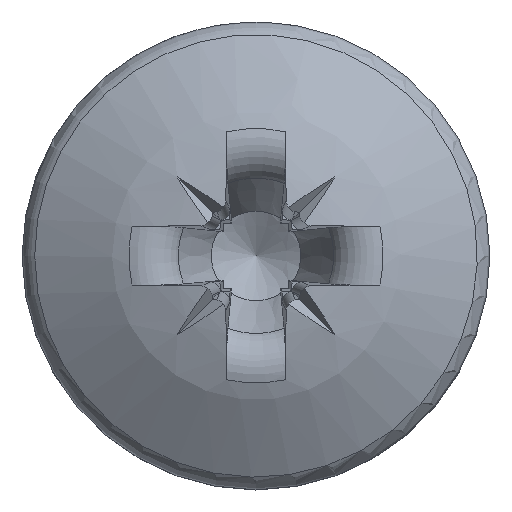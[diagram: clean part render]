
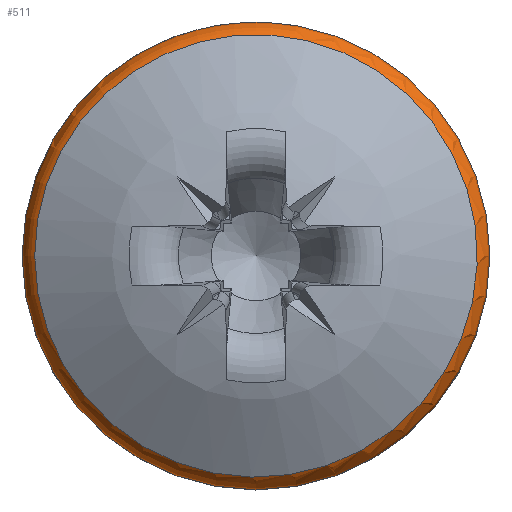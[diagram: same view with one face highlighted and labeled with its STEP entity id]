
A CAD part, top view. The second image highlights one B-rep face of the part: STEP entity #511.
In plain terms, the highlighted toroidal (fillet/blend) face has major radius 3.033 mm and minor radius 0.467 mm.
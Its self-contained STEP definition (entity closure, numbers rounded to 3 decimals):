
#417=TOROIDAL_SURFACE('',#2338,3.033,0.467);
#433=FACE_BOUND('',#799,.T.);
#434=FACE_BOUND('',#800,.T.);
#511=ADVANCED_FACE('',(#433,#434),#417,.T.);
#799=EDGE_LOOP('',(#1271));
#800=EDGE_LOOP('',(#1272));
#878=CIRCLE('',#2223,3.311);
#903=CIRCLE('',#2253,3.5);
#1271=ORIENTED_EDGE('',*,*,#1836,.F.);
#1272=ORIENTED_EDGE('',*,*,#1795,.F.);
#1601=VERTEX_POINT('',#4297);
#1640=VERTEX_POINT('',#4538);
#1795=EDGE_CURVE('',#1601,#1601,#878,.T.);
#1836=EDGE_CURVE('',#1640,#1640,#903,.T.);
#2223=AXIS2_PLACEMENT_3D('',#4296,#2356,#2357);
#2253=AXIS2_PLACEMENT_3D('',#4537,#2417,#2418);
#2338=AXIS2_PLACEMENT_3D('',#4969,#2647,#2648);
#2356=DIRECTION('',(0.,0.,1.));
#2357=DIRECTION('',(-1.,0.,0.));
#2417=DIRECTION('',(0.,0.,-1.));
#2418=DIRECTION('',(-1.,0.,0.));
#2647=DIRECTION('',(0.,0.,-1.));
#2648=DIRECTION('',(-1.,0.,0.));
#4296=CARTESIAN_POINT('',(0.,0.,2.006));
#4297=CARTESIAN_POINT('',(-3.311,0.,2.006));
#4537=CARTESIAN_POINT('',(0.,0.,1.631));
#4538=CARTESIAN_POINT('',(-3.5,0.,1.631));
#4969=CARTESIAN_POINT('',(0.,0.,1.631));
